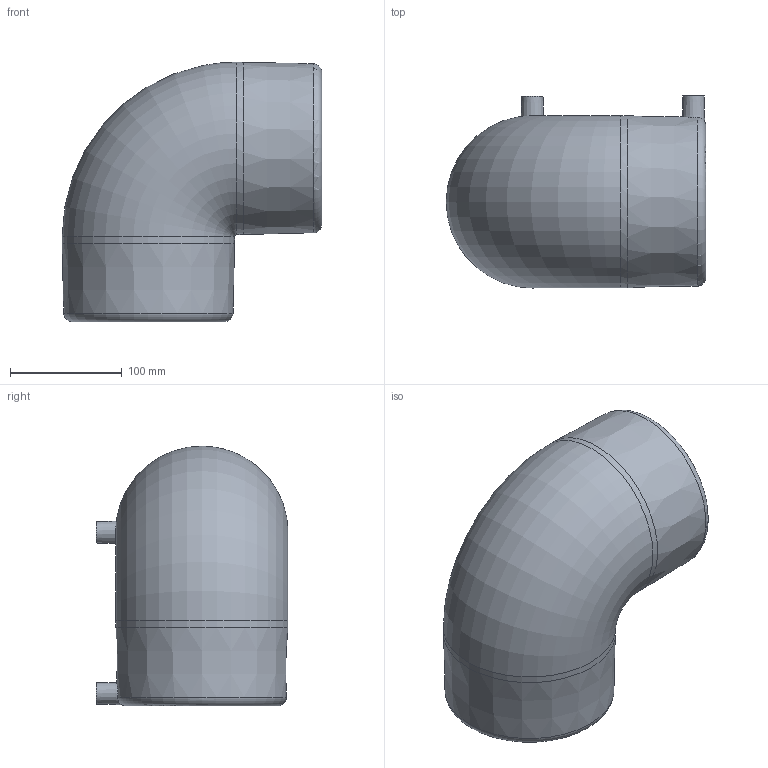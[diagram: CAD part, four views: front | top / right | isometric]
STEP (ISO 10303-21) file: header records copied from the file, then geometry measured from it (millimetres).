
FILE_DESCRIPTION(/* description */ ('Unknown'),/* implementation_level */ '2;1');
FILE_NAME(/* name */ 'GE9P125C',/* time_stamp */ '2021-02-11T16:14:00+01:00',/* author */ ('Unknown'),/* organization */ ('Unknown'),/* preprocessor_version */ 'ST-DEVELOPER v16.7',/* originating_system */ 'Solid Edge',/* authorisation */ 'Unknown');
FILE_SCHEMA (('AUTOMOTIVE_DESIGN {1 0 10303 214 3 1 1}'));
Length unit declared in the file: millimetre
Products named in the file (1): GE9P125C
Bounding box: 232 x 171.5 x 232 mm (x, y, z)
Volume: 1857025 mm3; surface area: 254240.2 mm2
Topology: 1 solids, 1 shells, 32 faces, 65 edges, 43 vertices
Faces by surface type: plane 12, cylinder 12, cone 4, torus 4
Full cylindrical faces by diameter (mm): 4 x2, 6 x2, 12 x2, 125 x2, 154 x2
Entity records: 835 total; most frequent: CARTESIAN_POINT 249, DIRECTION 120, ORIENTED_EDGE 78, AXIS2_PLACEMENT_3D 60, EDGE_LOOP 59, FACE_BOUND 59, EDGE_CURVE 39, VERTEX_POINT 34
